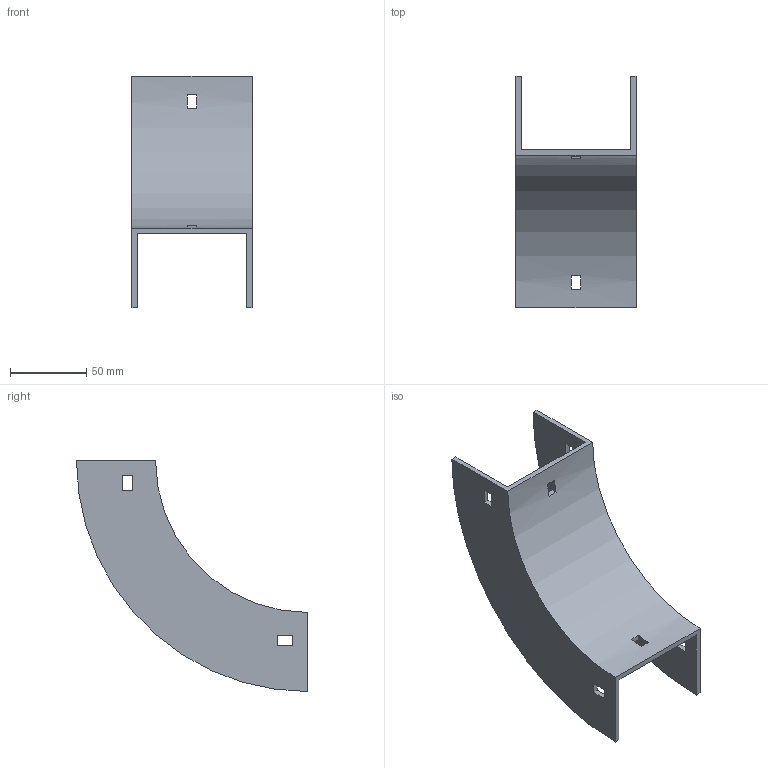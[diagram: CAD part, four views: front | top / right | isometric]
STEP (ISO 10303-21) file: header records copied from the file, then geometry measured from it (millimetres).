
FILE_DESCRIPTION (( 'STEP AP214' ), '1' );
FILE_NAME ('33B1B075.step', '2025-02-21T09:31:21', ( '' ), ( '' ), 'SwSTEP 2.0', 'SolidWorks 2023', '' );
FILE_SCHEMA (( 'AUTOMOTIVE_DESIGN' ));
Length unit declared in the file: millimetre
Products named in the file (1): 33B1B075
Bounding box: 79 x 152 x 152 mm (x, y, z)
Volume: 110924.6 mm3; surface area: 66965.7 mm2
Topology: 1 solids, 1 shells, 34 faces, 96 edges, 64 vertices
Faces by surface type: plane 30, cylinder 4
Entity records: 1143 total; most frequent: CARTESIAN_POINT 195, ORIENTED_EDGE 192, DIRECTION 182, EDGE_CURVE 96, VECTOR 80, LINE 80, VERTEX_POINT 64, AXIS2_PLACEMENT_3D 51
